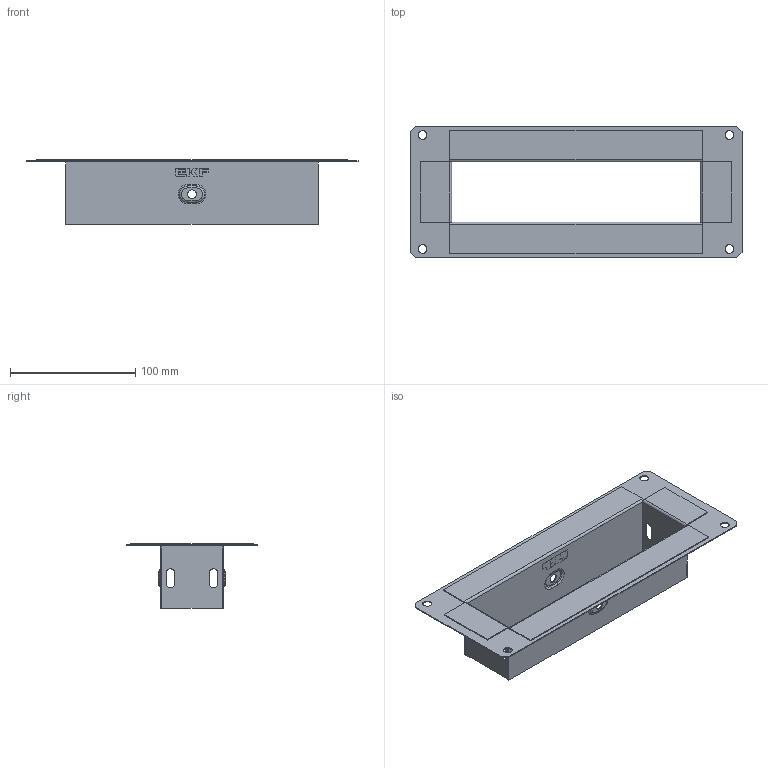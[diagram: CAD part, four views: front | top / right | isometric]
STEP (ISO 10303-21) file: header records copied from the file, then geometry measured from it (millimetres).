
FILE_DESCRIPTION (( 'STEP AP203' ), '1' );
FILE_NAME ('f50200_捘.STEP', '2020-01-23T12:29:08', ( '' ), ( '' ), 'SwSTEP 2.0', 'SolidWorks 2016', '' );
FILE_SCHEMA (( 'CONFIG_CONTROL_DESIGN' ));
Length unit declared in the file: millimetre
Products named in the file (9): f50300_3; f50200_1; f35200_2; f50200_捘
Assembly tree (5 placements, depth 2):
  f50300_3
  f50300_3
  f50200_捘
    f50200_1
    f35200_2  x2
    f50300_3  x2
  f50200_1
  f35200_2
Bounding box: 265 x 105 x 51.5 mm (x, y, z)
Volume: 43441.4 mm3; surface area: 111096.8 mm2
Topology: 5 solids, 5 shells, 306 faces, 792 edges, 512 vertices
Faces by surface type: plane 212, cylinder 60, bspline 18, torus 16
Entity records: 6262 total; most frequent: CARTESIAN_POINT 1358, ORIENTED_EDGE 852, DIRECTION 816, EDGE_CURVE 426, LINE 328, VECTOR 328, VERTEX_POINT 276, AXIS2_PLACEMENT_3D 244
